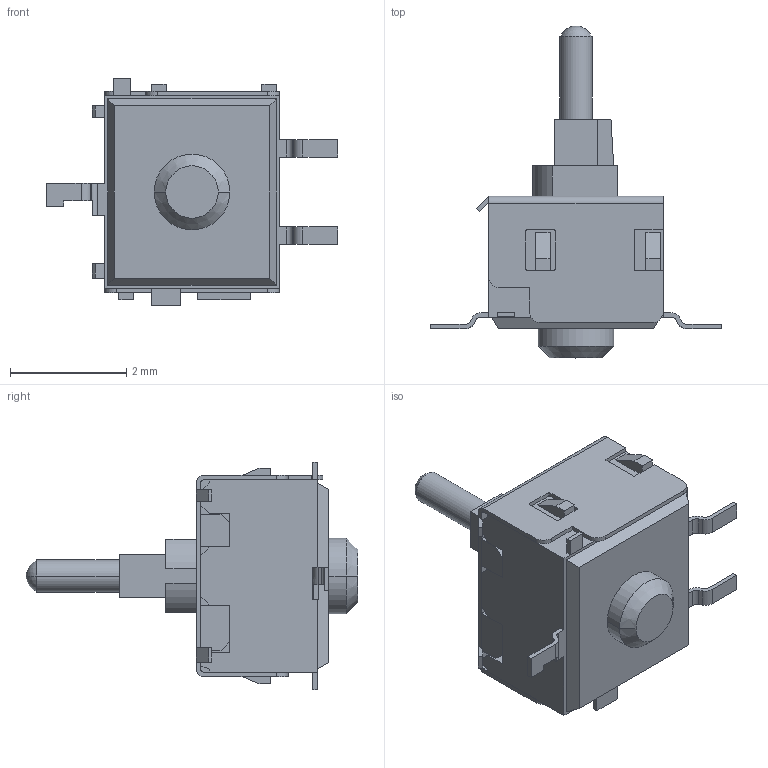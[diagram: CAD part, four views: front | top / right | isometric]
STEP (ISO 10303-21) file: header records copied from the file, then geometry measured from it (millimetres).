
FILE_DESCRIPTION (( 'STEP AP214' ), '1' );
FILE_NAME ('SPVE111300.STEP', '2012-08-03T02:41:01', ( '' ), ( '' ), 'SwSTEP 2.0', 'SolidWorks 2010', '' );
FILE_SCHEMA (( 'AUTOMOTIVE_DESIGN' ));
Length unit declared in the file: millimetre
Products named in the file (1): SPVE111300
Bounding box: 5 x 5.7 x 3.9 mm (x, y, z)
Volume: 25.3 mm3; surface area: 102.4 mm2
Topology: 3 solids, 3 shells, 250 faces, 706 edges, 465 vertices
Faces by surface type: plane 198, cylinder 48, sphere 2, cone 2
Entity records: 9586 total; most frequent: CARTESIAN_POINT 1422, ORIENTED_EDGE 1412, DIRECTION 1316, EDGE_CURVE 706, VECTOR 598, LINE 598, VERTEX_POINT 465, AXIS2_PLACEMENT_3D 359
